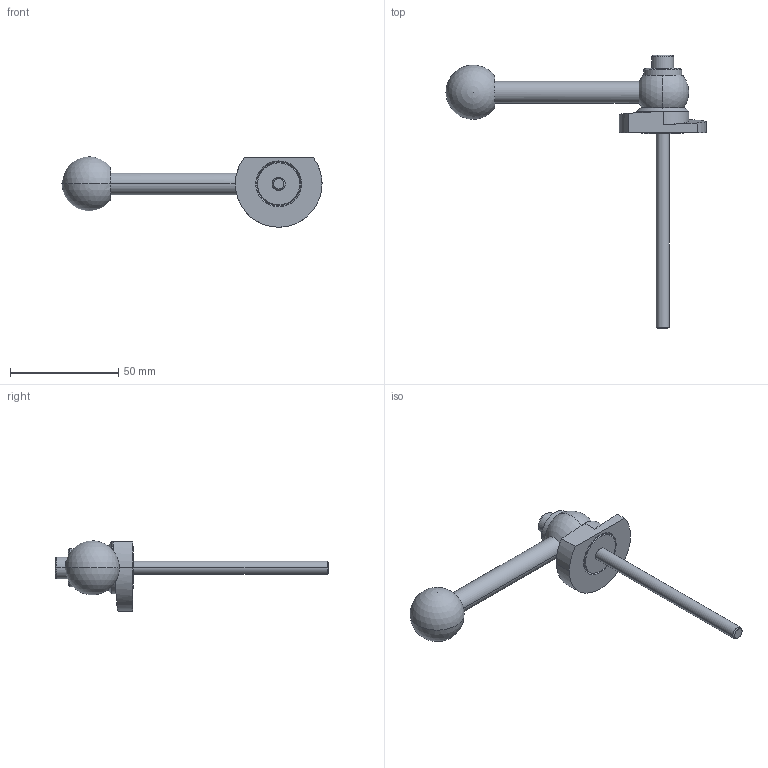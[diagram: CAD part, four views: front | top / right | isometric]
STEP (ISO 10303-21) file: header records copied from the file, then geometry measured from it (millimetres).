
FILE_DESCRIPTION (( 'STEP AP214' ), '1' );
FILE_NAME ('918.1-40-GVS-R-90.step', '2024-05-15T12:59:56', ( '' ), ( '' ), 'SwSTEP 2.0', 'SolidWorks 2022', '' );
FILE_SCHEMA (( 'AUTOMOTIVE_DESIGN' ));
Length unit declared in the file: millimetre
Products named in the file (1): 918.1-40-GVS-R-90
Bounding box: 120 x 126 x 32.5 mm (x, y, z)
Volume: 32052.4 mm3; surface area: 12435.6 mm2
Topology: 1 solids, 1 shells, 64 faces, 147 edges, 93 vertices
Faces by surface type: cylinder 22, plane 20, cone 14, sphere 4, torus 2, bspline 2
Entity records: 2045 total; most frequent: CARTESIAN_POINT 590, DIRECTION 321, ORIENTED_EDGE 274, EDGE_CURVE 137, AXIS2_PLACEMENT_3D 131, VERTEX_POINT 87, EDGE_LOOP 76, CIRCLE 68
